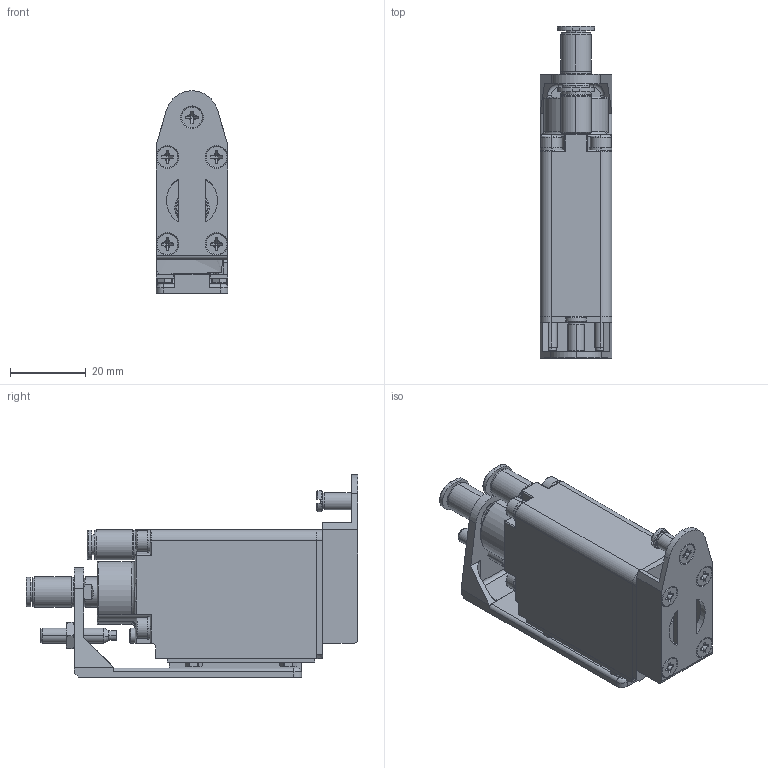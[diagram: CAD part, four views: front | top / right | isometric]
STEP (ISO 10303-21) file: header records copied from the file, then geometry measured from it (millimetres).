
FILE_DESCRIPTION (( 'STEP AP214' ), '1' );
FILE_NAME ('GT-NY03G-4.STEP', '2019-11-27T01:22:45', ( '微软用户' ), ( '微软中国' ), 'SwSTEP 2.0', 'SolidWorks 2016', '' );
FILE_SCHEMA (( 'AUTOMOTIVE_DESIGN' ));
Length unit declared in the file: millimetre
Products named in the file (1): GT-NY03G-4
Bounding box: 19 x 87.7 x 53.5 mm (x, y, z)
Surface area: 20053.6 mm2 (no closed solid volume)
Topology: 0 solids, 30 shells, 885 faces, 2222 edges, 1410 vertices
Faces by surface type: plane 380, cylinder 273, bspline 126, cone 56, torus 44, sphere 6
Entity records: 37678 total; most frequent: CARTESIAN_POINT 11602, ORIENTED_EDGE 4359, DIRECTION 3965, EDGE_CURVE 2198, AXIS2_PLACEMENT_3D 1508, VERTEX_POINT 1410, EDGE_LOOP 973, VECTOR 949
